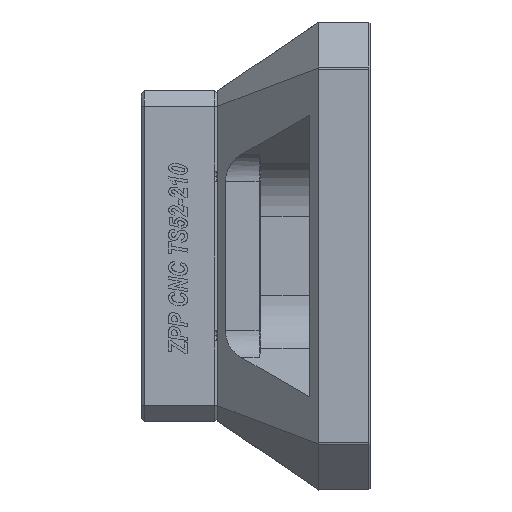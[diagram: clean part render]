
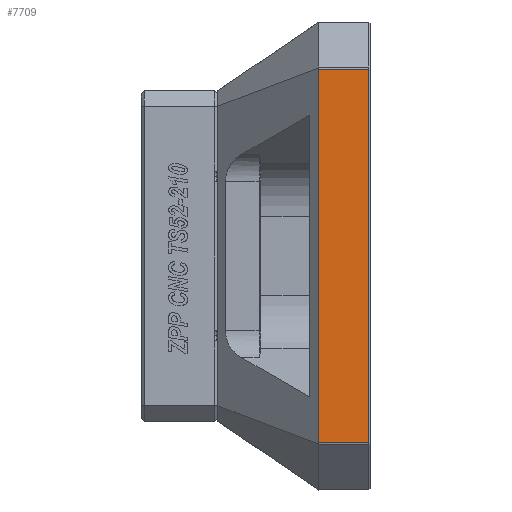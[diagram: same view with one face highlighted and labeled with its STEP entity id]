
A CAD part, left-side view. The second image highlights one B-rep face of the part: STEP entity #7709.
In plain terms, the highlighted planar face has unit normal (-1, 0, 0).
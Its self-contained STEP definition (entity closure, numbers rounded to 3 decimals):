
#2704=DIRECTION('',(0.,0.,-1.));
#2705=VECTOR('',#2704,122.172);
#2706=CARTESIAN_POINT('',(-130.,24.998,61.086));
#2707=LINE('',#2706,#2705);
#2708=DIRECTION('',(0.,1.,0.));
#2709=VECTOR('',#2708,16.398);
#2710=CARTESIAN_POINT('',(-130.,8.6,61.086));
#2711=LINE('',#2710,#2709);
#2712=DIRECTION('',(0.,0.,-1.));
#2713=VECTOR('',#2712,122.172);
#2714=CARTESIAN_POINT('',(-130.,8.6,61.086));
#2715=LINE('',#2714,#2713);
#2716=DIRECTION('',(0.,-1.,0.));
#2717=VECTOR('',#2716,16.398);
#2718=CARTESIAN_POINT('',(-130.,24.998,-61.086));
#2719=LINE('',#2718,#2717);
#3128=CARTESIAN_POINT('',(-130.,8.6,-61.086));
#3129=VERTEX_POINT('',#3128);
#3132=CARTESIAN_POINT('',(-130.,8.6,61.086));
#3133=VERTEX_POINT('',#3132);
#3196=CARTESIAN_POINT('',(-130.,24.998,61.086));
#3197=CARTESIAN_POINT('',(-130.,24.998,-61.086));
#3198=VERTEX_POINT('',#3196);
#3199=VERTEX_POINT('',#3197);
#7697=CARTESIAN_POINT('',(-130.,0.,76.5));
#7698=DIRECTION('',(1.,0.,0.));
#7699=DIRECTION('',(0.,0.,-1.));
#7700=AXIS2_PLACEMENT_3D('',#7697,#7698,#7699);
#7701=PLANE('',#7700);
#7702=ORIENTED_EDGE('',*,*,#7328,.F.);
#7703=ORIENTED_EDGE('',*,*,#7692,.F.);
#7704=ORIENTED_EDGE('',*,*,#5777,.T.);
#7706=ORIENTED_EDGE('',*,*,#7705,.F.);
#7707=EDGE_LOOP('',(#7702,#7703,#7704,#7706));
#7708=FACE_OUTER_BOUND('',#7707,.F.);
#7709=ADVANCED_FACE('',(#7708),#7701,.F.);
#5777=EDGE_CURVE('',#3133,#3129,#2715,.T.);
#7328=EDGE_CURVE('',#3198,#3199,#2707,.T.);
#7692=EDGE_CURVE('',#3133,#3198,#2711,.T.);
#7705=EDGE_CURVE('',#3199,#3129,#2719,.T.);
